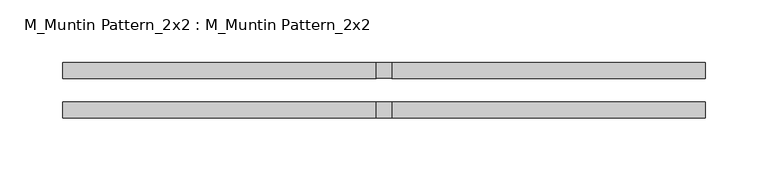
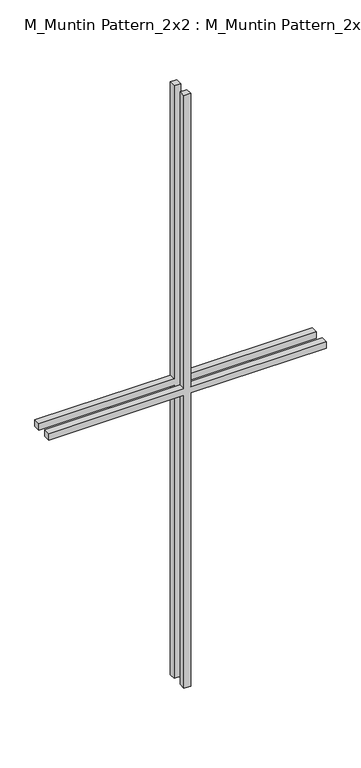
"""IFC4 building model written with IfcOpenShell, lengths in millimetres: proxy geometry, M_Muntin Pattern_2x2 : M_Muntin Pattern_2x2."""

import ifcopenshell
import ifcopenshell.guid

model = None  # the IFC model being written
_history = None  # IfcOwnerHistory: only IFC2X3 demands one
_inside = {}  # id of a spatial element -> (the spatial element, [elements in it])
_under = {}  # id of a project, library or spatial element -> (it, [spatial elements below it])
_declared = {}  # id of a project -> (the project, [libraries it declares])
_typed = {}  # id of a type object -> (the type object, [elements of that type])
_made_of = {}  # id of a material, layer set ... -> (it, [elements and type objects made of it])


def new_model(schema):
    """Start an empty IFC model of exactly this schema.

    Asked for "IFC4X3", IfcOpenShell would pick the latest addendum, in which some entities
    have other attributes; the version numbers below select the first issue.
    IFC2X3 requires an IfcOwnerHistory on every rooted entity: one is made here for all.
    """
    global model, _history
    if schema == "IFC4X3":
        model = ifcopenshell.file(schema_version=(4, 3, 0, 0))
    else:
        model = ifcopenshell.file(schema=schema)
    _inside.clear()
    _under.clear()
    _declared.clear()
    _typed.clear()
    _made_of.clear()
    _history = None
    if model.schema == "IFC2X3":
        org = make("IfcOrganization", Name="unknown")
        user = make(
            "IfcPersonAndOrganization",
            ThePerson=make("IfcPerson", FamilyName="unknown"),
            TheOrganization=org,
        )
        app = make(
            "IfcApplication",
            ApplicationDeveloper=org,
            Version="unknown",
            ApplicationFullName="unknown",
            ApplicationIdentifier="unknown",
        )
        _history = make(
            "IfcOwnerHistory",
            OwningUser=user,
            OwningApplication=app,
            ChangeAction="ADDED",
            CreationDate=0,
        )
    return model


def make(cls, **values):
    """One entity of the class cls with the attributes given. An attribute that is None is left unset."""
    return model.create_entity(
        cls, **{name: value for name, value in values.items() if value is not None}
    )


def rooted(cls, **values):
    """An entity with a GlobalId (a new one), such as an element, a storey or a relation."""
    return make(cls, GlobalId=ifcopenshell.guid.new(), OwnerHistory=_history, **values)


def si_unit(unit_type, name, prefix=None):
    """IfcSIUnit, for example si_unit("LENGTHUNIT", "METRE", prefix="MILLI")."""
    return make("IfcSIUnit", UnitType=unit_type, Prefix=prefix, Name=name)


def assignment(units):
    """IfcUnitAssignment: the units of a project."""
    return None if units is None else make("IfcUnitAssignment", Units=units)


def point(xyz):
    """IfcCartesianPoint."""
    return None if xyz is None else make("IfcCartesianPoint", Coordinates=xyz)


def direction(xyz):
    """IfcDirection."""
    return None if xyz is None else make("IfcDirection", DirectionRatios=xyz)


def frame(location, z_axis=None, x_axis=None):
    """IfcAxis2Placement3D, a coordinate frame: its origin and axes. An axis left out is left unset."""
    return make(
        "IfcAxis2Placement3D",
        Location=point(location),
        Axis=direction(z_axis),
        RefDirection=direction(x_axis),
    )


def origin():
    """The frame at (0, 0, 0) with its axes left unset."""
    return frame((0.0, 0.0, 0.0))


def place(relative_to, where):
    """IfcLocalPlacement: puts the frame where relative to a parent placement (None: the world)."""
    return make(
        "IfcLocalPlacement", PlacementRelTo=relative_to, RelativePlacement=where
    )


def context(
    kind, dimensions, precision=None, world=None, true_north=None, identifier=None
):
    """IfcGeometricRepresentationContext, for example the 3D "Model" context."""
    return make(
        "IfcGeometricRepresentationContext",
        ContextIdentifier=identifier,
        ContextType=kind,
        CoordinateSpaceDimension=dimensions,
        Precision=precision,
        WorldCoordinateSystem=world,
        TrueNorth=true_north,
    )


def project(units=None, contexts=None):
    """IfcProject with its units and contexts."""
    return rooted(
        "IfcProject",
        Name="project",
        RepresentationContexts=contexts,
        UnitsInContext=assignment(units),
    )


def spatial(cls, under=None, at=None, **own):
    """A site, building, storey or space (cls), placed at a placement, below another one or the project."""
    s = rooted(cls, ObjectPlacement=at, **own)
    if under is not None:
        _under.setdefault(under.id(), (under, []))[1].append(s)
    return s


def polyline(points):
    """IfcPolyline through the points."""
    return make("IfcPolyline", Points=[point(p) for p in points])


def outline(outer, holes=None, kind="AREA"):
    """IfcArbitraryClosedProfileDef: a profile drawn as a closed curve; with holes, ...WithVoids."""
    if holes is None:
        return make("IfcArbitraryClosedProfileDef", ProfileType=kind, OuterCurve=outer)
    return make(
        "IfcArbitraryProfileDefWithVoids",
        ProfileType=kind,
        OuterCurve=outer,
        InnerCurves=holes,
    )


def extrude(swept, where, along, depth):
    """IfcExtrudedAreaSolid: the profile swept, set in the frame where, extruded along a direction by depth."""
    return make(
        "IfcExtrudedAreaSolid",
        SweptArea=swept,
        Position=where,
        ExtrudedDirection=direction(along),
        Depth=depth,
    )


def shape(context_of_items, identifier, shape_type, items):
    """IfcShapeRepresentation: the items that make up one representation, for example the "Body"."""
    return make(
        "IfcShapeRepresentation",
        ContextOfItems=context_of_items,
        RepresentationIdentifier=identifier,
        RepresentationType=shape_type,
        Items=items,
    )


def source(mapping_origin, context_of_items, identifier, shape_type, items):
    """IfcRepresentationMap: a shape defined once, which mapped items show again and again."""
    return make(
        "IfcRepresentationMap",
        MappingOrigin=mapping_origin,
        MappedRepresentation=shape(context_of_items, identifier, shape_type, items),
    )


def transform(
    local_origin,
    x_axis=None,
    y_axis=None,
    z_axis=None,
    scale=None,
    scale2=None,
    scale3=None,
    uniform=True,
):
    """IfcCartesianTransformationOperator3D, or its non-uniform kind. x_axis, y_axis, z_axis: its Axis1, 2, 3."""
    if uniform:
        return make(
            "IfcCartesianTransformationOperator3D",
            Axis1=direction(x_axis),
            Axis2=direction(y_axis),
            LocalOrigin=point(local_origin),
            Scale=scale,
            Axis3=direction(z_axis),
        )
    return make(
        "IfcCartesianTransformationOperator3DnonUniform",
        Axis1=direction(x_axis),
        Axis2=direction(y_axis),
        LocalOrigin=point(local_origin),
        Scale=scale,
        Axis3=direction(z_axis),
        Scale2=scale2,
        Scale3=scale3,
    )


def mapped(mapping_source, mapping_target):
    """IfcMappedItem: shows the shape of a source again, moved by a transform."""
    return make(
        "IfcMappedItem", MappingSource=mapping_source, MappingTarget=mapping_target
    )


def made_of(thing, what):
    """Note that an element or type object is made of a material, layer set ...; save() writes the relation."""
    if what is not None:
        _made_of.setdefault(what.id(), (what, []))[1].append(thing)
    return thing


def element(
    cls,
    number,
    at=None,
    inside=None,
    cuts=None,
    type_object=None,
    material=None,
    context=None,
    identifier="Body",
    shape_type=None,
    held_by="IfcProductDefinitionShape",
    body=None,
    shapes=None,
    **own,
):
    """One element of the class cls, such as IfcWall. Its Tag is "e" and its number.

    at: its placement. inside: the storey or other place that contains it. cuts: it is an
    opening in that element (IfcRelVoidsElement). A single representation is given by context,
    identifier, shape_type and body (its items); several are given by shapes. held_by: the class
    of the entity that holds the representations. save() writes the other relations.
    """
    e = rooted(cls, Tag="e%d" % number, ObjectPlacement=at, **own)
    if body is not None:
        shapes = [shape(context, identifier, shape_type, body)]
    if shapes is not None:
        e.Representation = make(held_by, Representations=shapes)
    if inside is not None:
        _inside.setdefault(inside.id(), (inside, []))[1].append(e)
    if cuts is not None:
        rooted(
            "IfcRelVoidsElement", RelatingBuildingElement=cuts, RelatedOpeningElement=e
        )
    if type_object is not None:
        _typed.setdefault(type_object.id(), (type_object, []))[1].append(e)
    return made_of(e, material)


def aggregate(whole, parts):
    """IfcRelAggregates: a whole, such as a stair, and the parts it consists of."""
    return rooted("IfcRelAggregates", RelatingObject=whole, RelatedObjects=parts)


def save(model, path):
    """Write the relations noted so far, then the file.

    IfcRelAggregates (storeys below a building ...), IfcRelContainedInSpatialStructure (elements
    in a storey), IfcRelDefinesByType, IfcRelAssociatesMaterial and IfcRelDeclares: one each for
    every whole, place, type object, material and project.
    """
    for whole, parts in _under.values():
        aggregate(whole, parts)
    for where, things in _inside.values():
        rooted(
            "IfcRelContainedInSpatialStructure",
            RelatedElements=things,
            RelatingStructure=where,
        )
    for kind, things in _typed.values():
        rooted("IfcRelDefinesByType", RelatedObjects=things, RelatingType=kind)
    for what, things in _made_of.values():
        rooted("IfcRelAssociatesMaterial", RelatedObjects=things, RelatingMaterial=what)
    for by, libraries in _declared.values():
        rooted("IfcRelDeclares", RelatingContext=by, RelatedDefinitions=libraries)
    model.write(path)


def m_muntin_pattern_2x2_m_muntin_pattern_2x2_4377dac6(model_context):
    return source(origin(), model_context, "Body", "SweptSolid", [
        extrude(outline(polyline([(586.5, -6.35), (586.5, -256.7375), (573.8, -256.7375), (573.8, -6.35), (0.0, -6.35), (0.0, 6.35), (573.8, 6.35), (573.8, 256.7375), (586.5, 256.7375), (586.5, 6.35), (1160.3, 6.35), (1160.3, -6.35), (586.5, -6.35)])), frame((0.0, 9.525, 0.0), z_axis=(0.0, 1.0, 0.0), x_axis=(0.0, 0.0, 1.0)), (0.0, 0.0, 1.0), 12.7),
        extrude(outline(polyline([(586.5, -6.35), (586.5, -256.7375), (573.8, -256.7375), (573.8, -6.35), (0.0, -6.35), (0.0, 6.35), (573.8, 6.35), (573.8, 256.7375), (586.5, 256.7375), (586.5, 6.35), (1160.3, 6.35), (1160.3, -6.35), (586.5, -6.35)])), frame((0.0, -22.225, 0.0), z_axis=(0.0, 1.0, 0.0), x_axis=(0.0, 0.0, 1.0)), (0.0, 0.0, 1.0), 12.7),
    ])


if __name__ == "__main__":
    model = new_model("IFC4")
    model_context = context("Model", 3, world=origin())
    ifc_project = project(units=[si_unit("LENGTHUNIT", "METRE", prefix="MILLI")], contexts=[model_context])
    site = spatial("IfcSite", under=ifc_project)
    building = spatial("IfcBuilding", under=site)
    placement = place(None, origin())
    m_muntin_pattern_2x2_m_muntin_pattern_2x2_shape = m_muntin_pattern_2x2_m_muntin_pattern_2x2_4377dac6(model_context)
    element("IfcBuildingElementProxy", 1, Name="M_Muntin Pattern_2x2 : M_Muntin Pattern_2x2", ObjectType="M_Muntin Pattern_2x2 : M_Muntin Pattern_2x2", at=placement, inside=building, context=model_context, shape_type="MappedRepresentation", body=[
        mapped(m_muntin_pattern_2x2_m_muntin_pattern_2x2_shape, transform((0.0, 0.0, 0.0), x_axis=(1.0, 0.0, 0.0), y_axis=(0.0, 1.0, 0.0), z_axis=(0.0, 0.0, 1.0))),
    ])
    save(model, "model.ifc")
